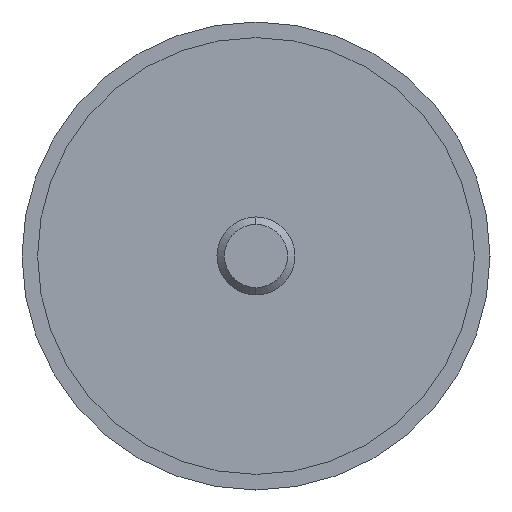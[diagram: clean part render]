
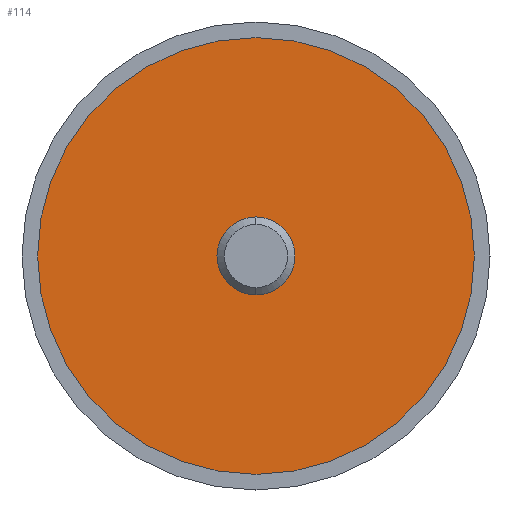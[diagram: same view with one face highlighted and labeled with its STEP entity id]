
A CAD part, left-side view. The second image highlights one B-rep face of the part: STEP entity #114.
In plain terms, the highlighted planar face has unit normal (-1, 0, 0).
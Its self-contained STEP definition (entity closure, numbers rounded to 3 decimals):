
#16 = DIRECTION ( 'NONE',  ( 0., 0., -1. ) ) ;
#25 = VERTEX_POINT ( 'NONE', #289 ) ;
#26 = DIRECTION ( 'NONE',  ( 0., 0., -1. ) ) ;
#80 = CARTESIAN_POINT ( 'NONE',  ( -24.99, 0., 0. ) ) ;
#82 = CARTESIAN_POINT ( 'NONE',  ( -24.99, 0., 28. ) ) ;
#107 = ORIENTED_EDGE ( 'NONE', *, *, #381, .T. ) ;
#114 = ADVANCED_FACE ( 'NONE', ( #131, #342 ), #671, .F. ) ;
#131 = FACE_OUTER_BOUND ( 'NONE', #525, .T. ) ;
#151 = VERTEX_POINT ( 'NONE', #473 ) ;
#175 = DIRECTION ( 'NONE',  ( 0., 0., 1. ) ) ;
#197 = DIRECTION ( 'NONE',  ( -1., 0., 0. ) ) ;
#198 = CARTESIAN_POINT ( 'NONE',  ( -24.99, 28., 0. ) ) ;
#199 = ORIENTED_EDGE ( 'NONE', *, *, #476, .T. ) ;
#216 = CIRCLE ( 'NONE', #346, 5. ) ;
#217 = AXIS2_PLACEMENT_3D ( 'NONE', #680, #197, #518 ) ;
#237 = EDGE_CURVE ( 'NONE', #331, #151, #216, .T. ) ;
#245 = CIRCLE ( 'NONE', #217, 28. ) ;
#289 = CARTESIAN_POINT ( 'NONE',  ( -24.99, 0., -28. ) ) ;
#328 = ORIENTED_EDGE ( 'NONE', *, *, #377, .F. ) ;
#331 = VERTEX_POINT ( 'NONE', #482 ) ;
#342 = FACE_BOUND ( 'NONE', #343, .T. ) ;
#343 = EDGE_LOOP ( 'NONE', ( #328, #536 ) ) ;
#346 = AXIS2_PLACEMENT_3D ( 'NONE', #440, #610, #16 ) ;
#377 = EDGE_CURVE ( 'NONE', #151, #331, #456, .T. ) ;
#381 = EDGE_CURVE ( 'NONE', #413, #25, #405, .T. ) ;
#403 = CARTESIAN_POINT ( 'NONE',  ( -24.99, 0., 0. ) ) ;
#405 = CIRCLE ( 'NONE', #585, 28. ) ;
#413 = VERTEX_POINT ( 'NONE', #82 ) ;
#440 = CARTESIAN_POINT ( 'NONE',  ( -24.99, 0., 0. ) ) ;
#450 = DIRECTION ( 'NONE',  ( -1., 0., 0. ) ) ;
#456 = CIRCLE ( 'NONE', #513, 5. ) ;
#469 = DIRECTION ( 'NONE',  ( 1., 0., 0. ) ) ;
#473 = CARTESIAN_POINT ( 'NONE',  ( -24.99, 0., 5. ) ) ;
#476 = EDGE_CURVE ( 'NONE', #25, #413, #245, .T. ) ;
#482 = CARTESIAN_POINT ( 'NONE',  ( -24.99, 0., -5. ) ) ;
#513 = AXIS2_PLACEMENT_3D ( 'NONE', #80, #450, #26 ) ;
#518 = DIRECTION ( 'NONE',  ( 0., 0., 1. ) ) ;
#519 = DIRECTION ( 'NONE',  ( 0., 0., -1. ) ) ;
#525 = EDGE_LOOP ( 'NONE', ( #107, #199 ) ) ;
#536 = ORIENTED_EDGE ( 'NONE', *, *, #237, .F. ) ;
#585 = AXIS2_PLACEMENT_3D ( 'NONE', #403, #670, #175 ) ;
#610 = DIRECTION ( 'NONE',  ( -1., 0., 0. ) ) ;
#651 = AXIS2_PLACEMENT_3D ( 'NONE', #198, #469, #519 ) ;
#670 = DIRECTION ( 'NONE',  ( -1., 0., 0. ) ) ;
#671 = PLANE ( 'NONE',  #651 ) ;
#680 = CARTESIAN_POINT ( 'NONE',  ( -24.99, 0., 0. ) ) ;
